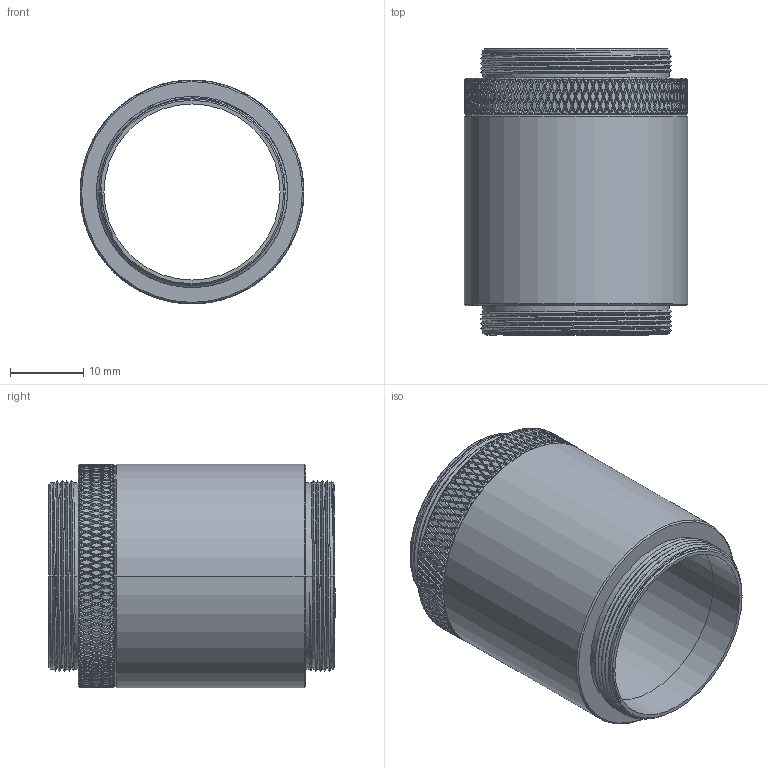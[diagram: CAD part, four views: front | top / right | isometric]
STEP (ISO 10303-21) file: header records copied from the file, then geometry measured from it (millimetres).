
FILE_DESCRIPTION((''),'2;1');
FILE_NAME('CSA-31X_ASM','2020-10-15T',('Administrator'),(''),'CREO PARAMETRIC BY PTC INC, 2015290','CREO PARAMETRIC BY PTC INC, 2015290','');
FILE_SCHEMA(('CONFIG_CONTROL_DESIGN'));
Length unit declared in the file: millimetre
Products named in the file (3): CSA-31X_A1; CSA-31X_A2; CSA-31X_ASM
Assembly tree (2 placements, depth 2):
  CSA-31X_ASM
    CSA-31X_A1
    CSA-31X_A2
Bounding box: 30.5 x 39.05 x 30.5 mm (x, y, z)
Volume: 8644.6 mm3; surface area: 12522.6 mm2
Topology: 2 solids, 2 shells, 2577 faces, 5377 edges, 2813 vertices
Faces by surface type: bspline 1616, cylinder 538, cone 410, plane 13
Entity records: 117334 total; most frequent: CARTESIAN_POINT 77613, ORIENTED_EDGE 10754, EDGE_CURVE 5377, B_SPLINE_CURVE_WITH_KNOTS 4660, DIRECTION 3303, VERTEX_POINT 2813, EDGE_LOOP 2590, FACE_OUTER_BOUND 2577
